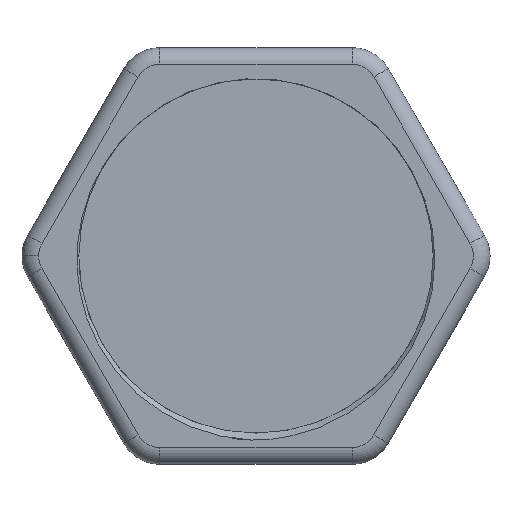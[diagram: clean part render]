
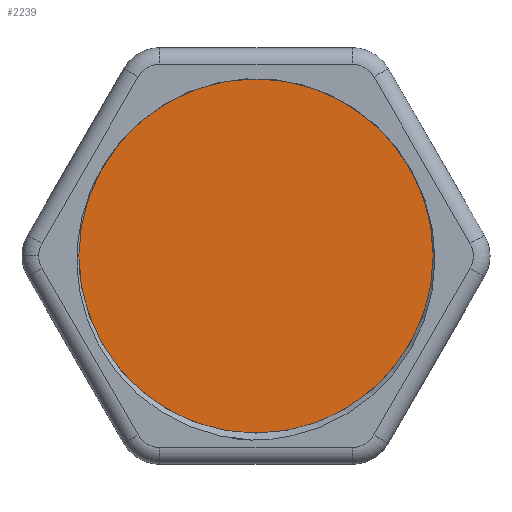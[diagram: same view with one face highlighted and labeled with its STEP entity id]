
A CAD part, top view. The second image highlights one B-rep face of the part: STEP entity #2239.
In plain terms, the highlighted planar face has unit normal (0, 0, 1).
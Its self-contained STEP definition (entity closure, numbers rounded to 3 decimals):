
#655 = CARTESIAN_POINT ( 'NONE',  ( 0., 0., 1.702 ) ) ;
#663 = FACE_OUTER_BOUND ( 'NONE', #1850, .T. ) ;
#664 = PLANE ( 'NONE',  #1837 ) ;
#666 = DIRECTION ( 'NONE',  ( 0., 0., 1. ) ) ;
#667 = DIRECTION ( 'NONE',  ( 1., 0., 0. ) ) ;
#1359 = CIRCLE ( 'NONE', #1364, 13.513 ) ;
#1364 = AXIS2_PLACEMENT_3D ( 'NONE', #1453, #1454, #1455 ) ;
#1365 = CIRCLE ( 'NONE', #1368, 13.513 ) ;
#1368 = AXIS2_PLACEMENT_3D ( 'NONE', #1613, #1614, #1615 ) ;
#1453 = CARTESIAN_POINT ( 'NONE',  ( 0., 0., 1.702 ) ) ;
#1454 = DIRECTION ( 'NONE',  ( 0., 0., 1. ) ) ;
#1455 = DIRECTION ( 'NONE',  ( 1., 0., 0. ) ) ;
#1613 = CARTESIAN_POINT ( 'NONE',  ( 0., 0., 1.702 ) ) ;
#1614 = DIRECTION ( 'NONE',  ( 0., 0., 1. ) ) ;
#1615 = DIRECTION ( 'NONE',  ( 1., 0., 0. ) ) ;
#1837 = AXIS2_PLACEMENT_3D ( 'NONE', #655, #666, #667 ) ;
#1850 = EDGE_LOOP ( 'NONE', ( #1889, #1895 ) ) ;
#1889 = ORIENTED_EDGE ( 'NONE', *, *, #2297, .T. ) ;
#1895 = ORIENTED_EDGE ( 'NONE', *, *, #2303, .T. ) ;
#2040 = VERTEX_POINT ( 'NONE', #2379 ) ;
#2056 = VERTEX_POINT ( 'NONE', #2394 ) ;
#2239 = ADVANCED_FACE ( 'NONE', ( #663 ), #664, .T. ) ;
#2297 = EDGE_CURVE ( 'NONE', #2040, #2056, #1359, .T. ) ;
#2303 = EDGE_CURVE ( 'NONE', #2056, #2040, #1365, .T. ) ;
#2379 = CARTESIAN_POINT ( 'NONE',  ( -13.513, 0., 1.702 ) ) ;
#2394 = CARTESIAN_POINT ( 'NONE',  ( 13.513, 0., 1.702 ) ) ;
